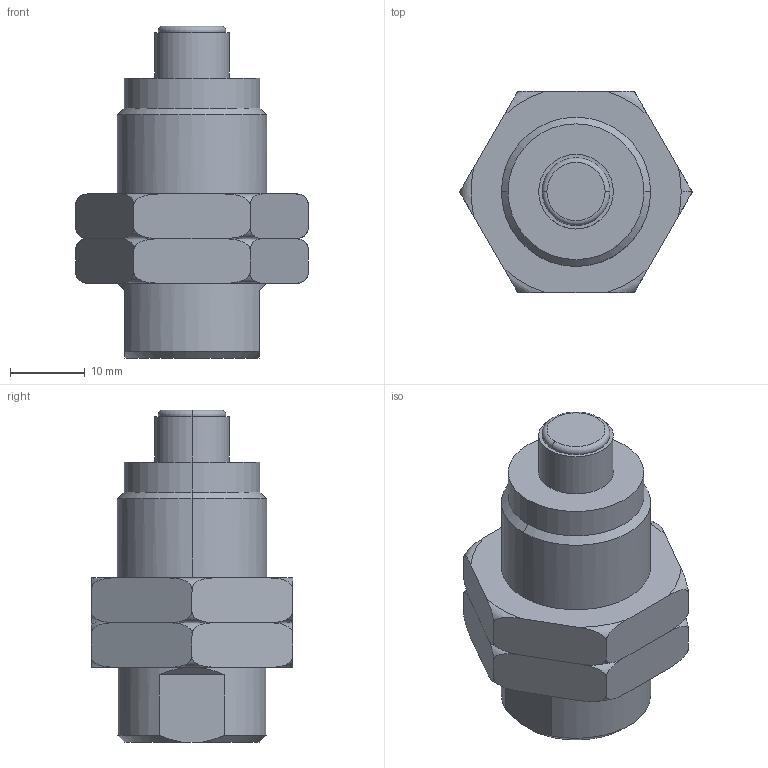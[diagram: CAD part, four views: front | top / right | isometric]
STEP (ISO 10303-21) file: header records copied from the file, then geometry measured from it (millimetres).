
FILE_DESCRIPTION (( 'STEP AP214' ), '1' );
FILE_NAME ('RBQC2007.step.step', '2023-01-02T12:28:30', ( '' ), ( '' ), 'SwSTEP 2.0', 'SolidWorks 2022', '' );
FILE_SCHEMA (( 'AUTOMOTIVE_DESIGN' ));
Length unit declared in the file: millimetre
Products named in the file (4): RBQC2007.step; RBQC2007.step_RBQ-Body_2007; RBQC2007.step_RBQ-Nut_20; RBQC2007.step_RBQ-Piston_2007C
Assembly tree (4 placements, depth 2):
  RBQC2007.step
    RBQC2007.step_RBQ-Body_2007
    RBQC2007.step_RBQ-Piston_2007C
    RBQC2007.step_RBQ-Nut_20  x2
Bounding box: 31.18 x 27 x 44.5 mm (x, y, z)
Volume: 15072.6 mm3; surface area: 6867.2 mm2
Topology: 4 solids, 4 shells, 78 faces, 190 edges, 124 vertices
Faces by surface type: torus 30, plane 28, cylinder 16, cone 4
Entity records: 2024 total; most frequent: CARTESIAN_POINT 641, DIRECTION 268, ORIENTED_EDGE 252, EDGE_CURVE 126, AXIS2_PLACEMENT_3D 113, VERTEX_POINT 82, EDGE_LOOP 60, FACE_OUTER_BOUND 54
